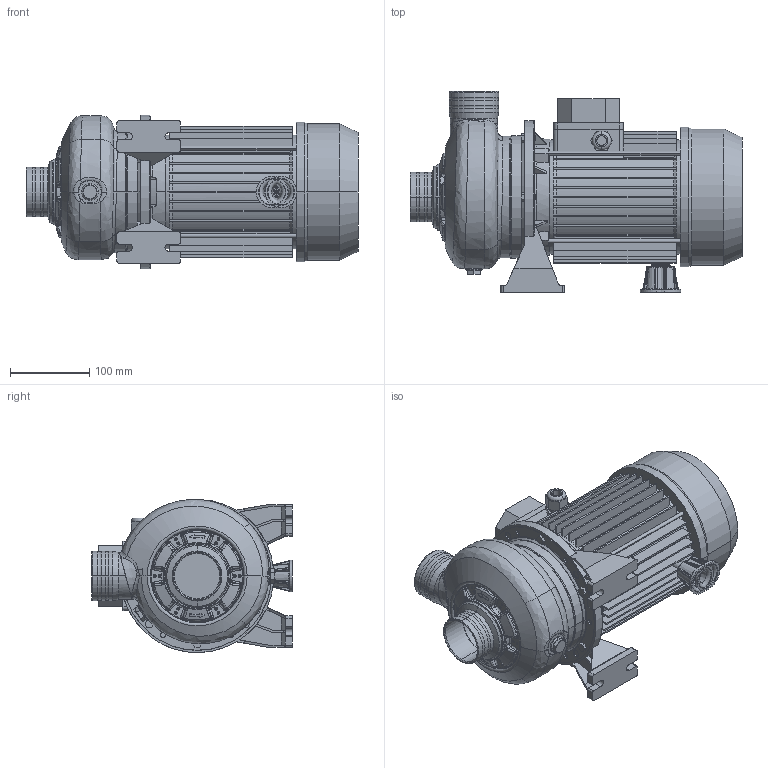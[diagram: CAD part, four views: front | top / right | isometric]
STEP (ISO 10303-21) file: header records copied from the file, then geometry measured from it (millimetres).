
FILE_DESCRIPTION((''),'2;1');
FILE_NAME('DWC_N_300_2_26_E_ASM','2011-07-06T',('Utente'),('"Ebara Pumps Europe +39.444.706811"'),'PRO/ENGINEER BY PARAMETRIC TECHNOLOGY CORPORATION, 2009360','PRO/ENGINEER BY PARAMETRIC TECHNOLOGY CORPORATION, 2009360','');
FILE_SCHEMA(('AUTOMOTIVE_DESIGN { 1 0 10303 214 1 1 1 1 }'));
Length unit declared in the file: millimetre
Products named in the file (12): MEC_90X120_IE2; 80598; 251420991; 10054; 76006; 40032; 10191; 62077; 20106_ASM; 72012; 360610016; DWC_N_300_2_26_E_ASM
Assembly tree (15 placements, depth 3):
  DWC_N_300_2_26_E_ASM
    MEC_90X120_IE2
    80598
    20106_ASM
      251420991
      10054
      76006  x2
      40032  x2
      10191
      62077
    72012  x2
    360610016  x2
Bounding box: 418 x 253 x 192.93 mm (x, y, z)
Volume: 3399742.3 mm3; surface area: 757735.1 mm2
Topology: 14 solids, 14 shells, 1800 faces, 4319 edges, 2598 vertices
Faces by surface type: plane 521, bspline 506, cylinder 308, torus 241, cone 178, sphere 42, extrusion 4
Entity records: 91273 total; most frequent: CARTESIAN_POINT 41424, ORIENTED_EDGE 7716, DIRECTION 6633, EDGE_CURVE 3858, PRESENTATION_STYLE_ASSIGNMENT 3855, STYLED_ITEM 3855, CURVE_STYLE 3846, AXIS2_PLACEMENT_3D 2738
